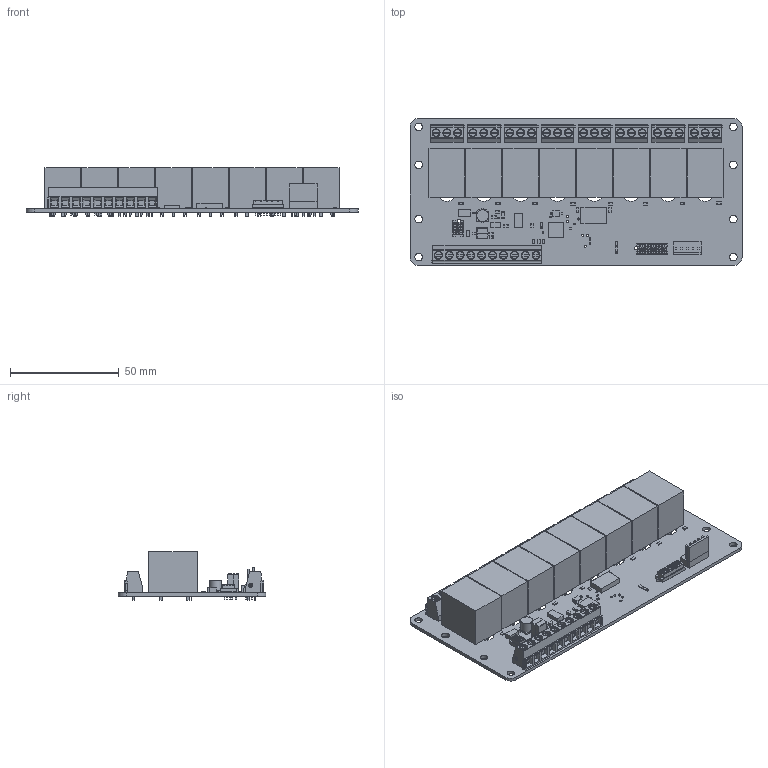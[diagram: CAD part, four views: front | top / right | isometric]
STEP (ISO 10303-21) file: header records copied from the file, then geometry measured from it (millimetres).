
FILE_DESCRIPTION(('Open CASCADE Model'),'2;1');
FILE_NAME('Open CASCADE Shape Model','2018-03-23T09:34:01',('Author'),( 'Open CASCADE'),'Open CASCADE STEP processor 6.8','Open CASCADE 6.8' ,'Unknown');
FILE_SCHEMA(('AUTOMOTIVE_DESIGN { 1 0 10303 214 1 1 1 1 }'));
Length unit declared in the file: millimetre
Products named in the file (157): PCB; Board; CAN; c-0215079-04-v-3d; J2; 6815114304; Extruded; 6815114112; 6815113920; 6815113728; R9; 6165959424; IC4; 6815108928; reH; 6815112576; 6815112960; reG; reF; reE; reD; reC; reB; reA; R10; R8; 6815111616; 6815111424; R7; R6; 6815111232; 6815111040; R5; R4; 6815110848; 6165965952; R3; R2; R1; 6165966144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
Assembly tree (278 placements, depth 4):
  PCB
    Board
    CAN
      c-0215079-04-v-3d
    J2
      6815114304  x2
        Extruded
      6815114112
        Extruded
      6815113920  x4
        Extruded
      6815113728  x2
        Extruded
    R9
      6165959424
        Extruded
    IC4
      6815108928
        Extruded
    reH
      6815112576
        Extruded
      6815112960
        Extruded
    reG
      6815112576
        Extruded
      6815112960
        Extruded
    reF
      6815112576
        Extruded
      6815112960
        Extruded
    reE
      6815112576
        Extruded
      6815112960
        Extruded
    reD
      6815112576
        Extruded
      6815112960
        Extruded
    reC
      6815112576
        Extruded
      6815112960
        Extruded
    reB
      6815112576
        Extruded
      6815112960
        Extruded
    reA
      6815112576
        Extruded
      6815112960
        Extruded
    R10
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Bounding box: 153 x 68 x 22.5 mm (x, y, z)
Volume: 84439.4 mm3; surface area: 52509.4 mm2
Topology: 170 solids, 170 shells, 4380 faces, 10548 edges, 6900 vertices
Faces by surface type: plane 3385, cylinder 791, torus 136, cone 68
Full cylindrical faces by diameter (mm): 0.85 x14, 0.9 x4, 0.991 x6, 1 x5, 1.1 x34, 1.3 x40, 1.8 x2, 3.5 x8, 5.5 x1
Entity records: 77924 total; most frequent: CARTESIAN_POINT 16143, ORIENTED_EDGE 11994, DIRECTION 11895, EDGE_CURVE 5997, LINE 4843, VECTOR 4843, VERTEX_POINT 3936, AXIS2_PLACEMENT_3D 3526
